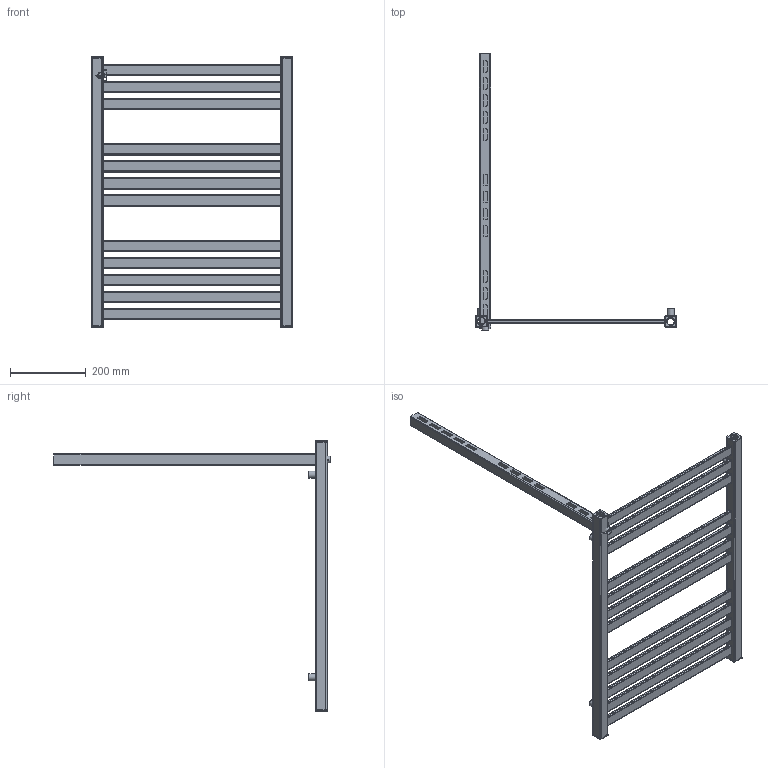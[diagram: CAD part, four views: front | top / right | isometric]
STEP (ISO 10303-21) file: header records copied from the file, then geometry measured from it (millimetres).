
FILE_DESCRIPTION( ( 'Unknown' ), '1' );
FILE_NAME( 'D:/Alplast sp. j/Witryna zespoBu - Projekty/Archiwum/Grzejniki Archiwum/Projekty/STANDARD/AK-EP/AK2-500EP.stp', 'Unknown', ( 'Unknown' ), ( 'Unknown' ), 'PSStep 10.1', 'Unknown', ' ' );
FILE_SCHEMA( ( 'AUTOMOTIVE_DESIGN { 1 0 10303 214 1 1 1 1 }' ) );
Length unit declared in the file: millimetre
Products named in the file (5): Assem1; zaslepka kwadrat otwor; AK2-EPEL; kana³  poziomy 30x10  500; mocowanie
Bounding box: 530 x 729 x 715.13 mm (x, y, z)
Volume: 1021889.9 mm3; surface area: 1368530.1 mm2
Topology: 26 solids, 26 shells, 664 faces, 1806 edges, 1204 vertices
Faces by surface type: plane 374, cylinder 280, torus 10
Full cylindrical faces by diameter (mm): 16 x5, 18 x5, 18.631 x5, 23 x5
Entity records: 6526 total; most frequent: DIRECTION 934, CARTESIAN_POINT 899, ORIENTED_EDGE 860, EDGE_CURVE 430, AXIS2_PLACEMENT_3D 325, VERTEX_POINT 290, LINE 284, VECTOR 284
